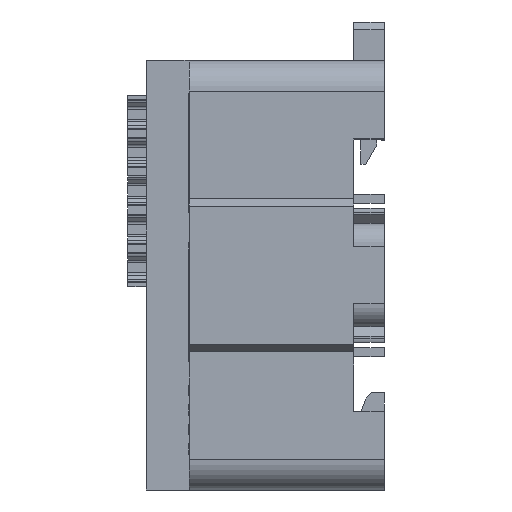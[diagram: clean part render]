
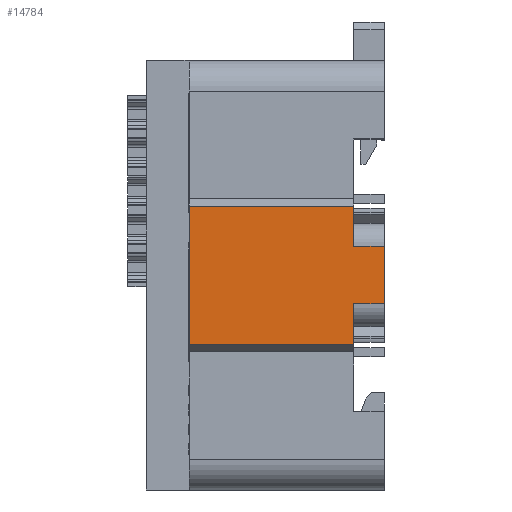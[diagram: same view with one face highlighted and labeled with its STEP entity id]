
A CAD part, left-side view. The second image highlights one B-rep face of the part: STEP entity #14784.
In plain terms, the highlighted planar face has unit normal (-1, 0, 0).
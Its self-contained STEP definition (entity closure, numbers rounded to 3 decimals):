
#1269=ORIENTED_EDGE('',*,*,#5620,.T.);
#1270=ORIENTED_EDGE('',*,*,#5123,.T.);
#1271=ORIENTED_EDGE('',*,*,#5621,.T.);
#1272=ORIENTED_EDGE('',*,*,#5622,.T.);
#1273=ORIENTED_EDGE('',*,*,#5623,.F.);
#1274=ORIENTED_EDGE('',*,*,#5077,.T.);
#1275=ORIENTED_EDGE('',*,*,#5624,.F.);
#1276=ORIENTED_EDGE('',*,*,#5625,.F.);
#5077=EDGE_CURVE('',#7302,#7301,#8762,.T.);
#5123=EDGE_CURVE('',#7348,#7347,#8798,.T.);
#5620=EDGE_CURVE('',#7775,#7348,#9201,.T.);
#5621=EDGE_CURVE('',#7347,#7776,#9202,.T.);
#5622=EDGE_CURVE('',#7776,#7777,#9203,.T.);
#5623=EDGE_CURVE('',#7302,#7777,#9204,.T.);
#5624=EDGE_CURVE('',#7778,#7301,#9205,.T.);
#5625=EDGE_CURVE('',#7775,#7778,#9206,.T.);
#7301=VERTEX_POINT('',#20976);
#7302=VERTEX_POINT('',#20978);
#7347=VERTEX_POINT('',#21068);
#7348=VERTEX_POINT('',#21070);
#7775=VERTEX_POINT('',#22059);
#7776=VERTEX_POINT('',#22061);
#7777=VERTEX_POINT('',#22063);
#7778=VERTEX_POINT('',#22066);
#8762=LINE('',#20977,#10636);
#8798=LINE('',#21069,#10672);
#9201=LINE('',#22058,#11075);
#9202=LINE('',#22060,#11076);
#9203=LINE('',#22062,#11077);
#9204=LINE('',#22064,#11078);
#9205=LINE('',#22065,#11079);
#9206=LINE('',#22067,#11080);
#10636=VECTOR('',#16765,1000.);
#10672=VECTOR('',#16821,1000.);
#11075=VECTOR('',#17542,1000.);
#11076=VECTOR('',#17543,1000.);
#11077=VECTOR('',#17544,1000.);
#11078=VECTOR('',#17545,1000.);
#11079=VECTOR('',#17546,1000.);
#11080=VECTOR('',#17547,1000.);
#12523=EDGE_LOOP('',(#1269,#1270,#1271,#1272,#1273,#1274,#1275,#1276));
#13353=FACE_BOUND('',#12523,.T.);
#14164=PLANE('',#15705);
#14784=ADVANCED_FACE('',(#13353),#14164,.F.);
#15705=AXIS2_PLACEMENT_3D('',#22057,#17540,#17541);
#16765=DIRECTION('',(0.,0.,1.));
#16821=DIRECTION('',(0.,0.,1.));
#17540=DIRECTION('',(1.,0.,0.));
#17541=DIRECTION('',(0.,0.,-1.));
#17542=DIRECTION('',(0.,-1.,0.));
#17543=DIRECTION('',(0.,-1.,0.));
#17544=DIRECTION('',(0.,0.,1.));
#17545=DIRECTION('',(0.,-1.,0.));
#17546=DIRECTION('',(0.,-1.,0.));
#17547=DIRECTION('',(0.,0.,1.));
#20976=CARTESIAN_POINT('',(0.,-21.5,9.));
#20977=CARTESIAN_POINT('',(0.,-21.5,-9.));
#20978=CARTESIAN_POINT('',(0.,-21.5,3.75));
#21068=CARTESIAN_POINT('',(0.,-21.5,-3.75));
#21069=CARTESIAN_POINT('',(0.,-21.5,-9.));
#21070=CARTESIAN_POINT('',(0.,-21.5,-9.));
#22057=CARTESIAN_POINT('',(0.,5.5,-9.));
#22058=CARTESIAN_POINT('',(0.,5.5,-9.));
#22059=CARTESIAN_POINT('',(0.,-0.05,-9.));
#22060=CARTESIAN_POINT('',(0.,-21.5,-3.75));
#22061=CARTESIAN_POINT('',(0.,-25.5,-3.75));
#22062=CARTESIAN_POINT('',(0.,-25.5,-3.75));
#22063=CARTESIAN_POINT('',(0.,-25.5,3.75));
#22064=CARTESIAN_POINT('',(0.,-21.5,3.75));
#22065=CARTESIAN_POINT('',(0.,5.5,9.));
#22066=CARTESIAN_POINT('',(0.,-0.05,9.));
#22067=CARTESIAN_POINT('',(0.,-0.05,-9.));
